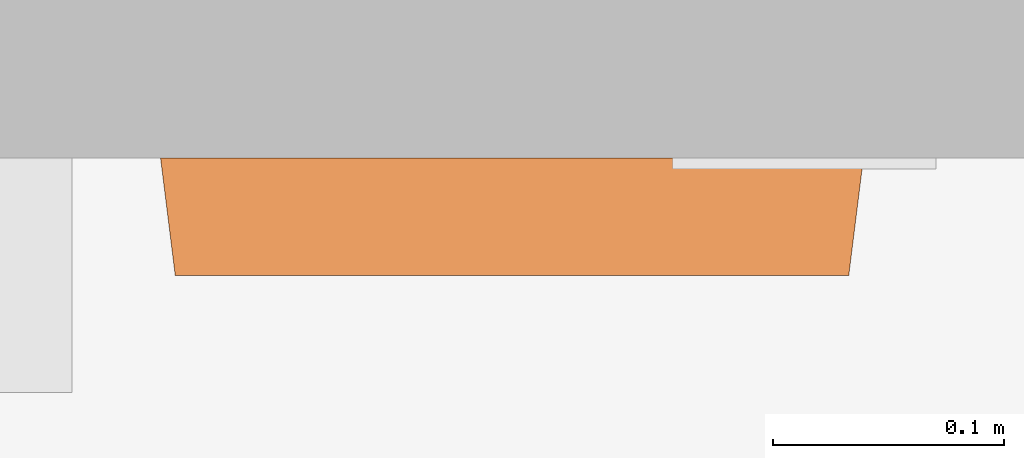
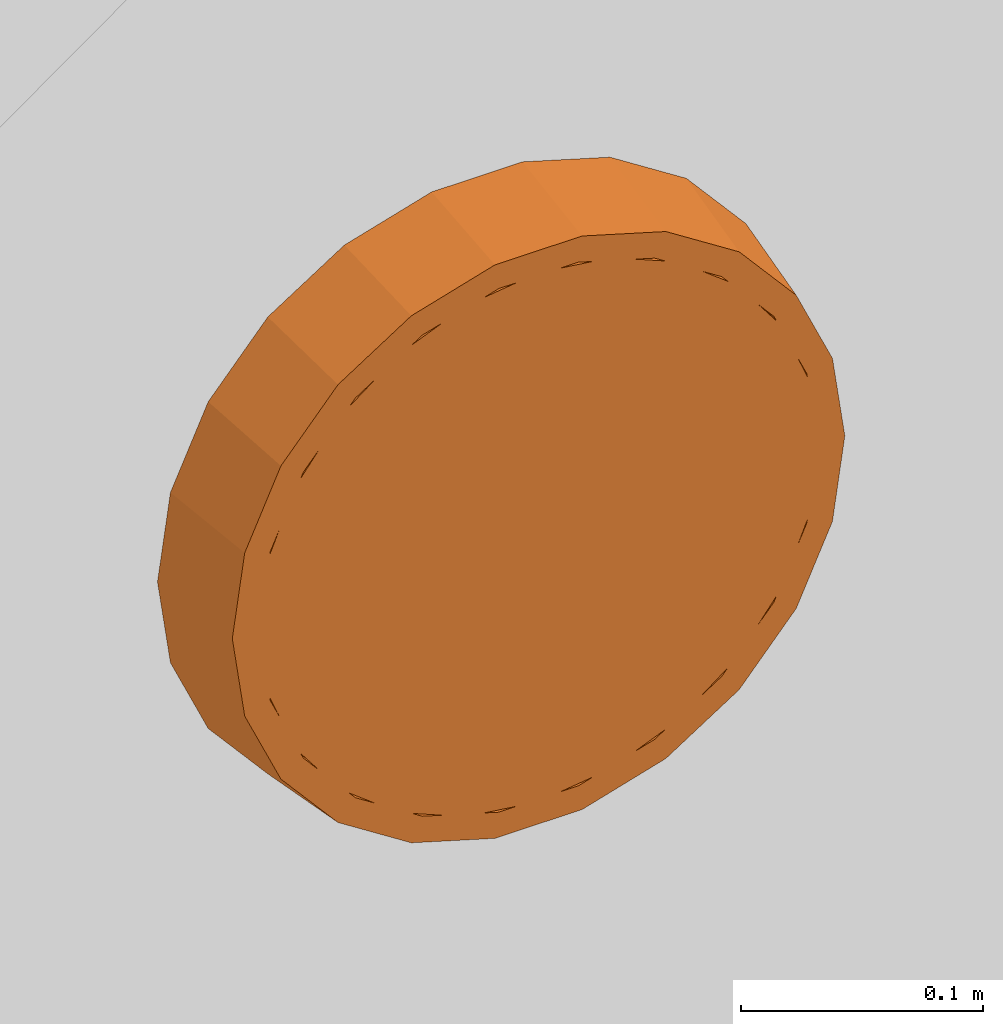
# One storey, part 9 of 9: 1 proxy.
"""IFC2X3 building model written with IfcOpenShell, lengths in feet."""

from ifc_helpers import new_model, entity, si_unit, converted_unit, derived_unit, direction, frame, origin, place, context, subcontext, project, spatial, faceted_brep, source, transform, mapped, type_object, type_shapes, element, save


model = new_model("IFC2X3")

# Units and contexts
model_context = context("Model", 3, precision=0.0001, world=origin(), true_north=direction((6.12303176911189e-17, 1.0)))
body_context = subcontext(model_context, "Body", "Model", "MODEL_VIEW")
ifc_project = project(units=[converted_unit("LENGTHUNIT", "FOOT", entity("IfcRatioMeasure", 0.3048), si_unit("LENGTHUNIT", "METRE"), dimensions=[1, 0, 0, 0, 0, 0, 0]), converted_unit("AREAUNIT", "SQUARE FOOT", entity("IfcRatioMeasure", 0.09290304), si_unit("AREAUNIT", "SQUARE_METRE"), dimensions=[2, 0, 0, 0, 0, 0, 0]), converted_unit("VOLUMEUNIT", "CUBIC FOOT", entity("IfcRatioMeasure", 0.028316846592), si_unit("VOLUMEUNIT", "CUBIC_METRE"), dimensions=[3, 0, 0, 0, 0, 0, 0]), converted_unit("PLANEANGLEUNIT", "DEGREE", entity("IfcRatioMeasure", 0.0174532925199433), si_unit("PLANEANGLEUNIT", "RADIAN"), dimensions=[0, 0, 0, 0, 0, 0, 0]), si_unit("MASSUNIT", "GRAM", prefix="KILO"), derived_unit("MASSDENSITYUNIT", [(si_unit("MASSUNIT", "GRAM", prefix="KILO"), 1), (si_unit("LENGTHUNIT", "METRE"), -3)]), si_unit("TIMEUNIT", "SECOND"), si_unit("FREQUENCYUNIT", "HERTZ"), si_unit("THERMODYNAMICTEMPERATUREUNIT", "DEGREE_CELSIUS"), derived_unit("THERMALTRANSMITTANCEUNIT", [(si_unit("MASSUNIT", "GRAM", prefix="KILO"), 1), (si_unit("THERMODYNAMICTEMPERATUREUNIT", "KELVIN"), -1), (si_unit("TIMEUNIT", "SECOND"), -3)]), derived_unit("VOLUMETRICFLOWRATEUNIT", [(si_unit("LENGTHUNIT", "METRE"), 3), (si_unit("TIMEUNIT", "SECOND"), -1)]), si_unit("ELECTRICCURRENTUNIT", "AMPERE"), si_unit("ELECTRICVOLTAGEUNIT", "VOLT"), si_unit("POWERUNIT", "WATT"), si_unit("FORCEUNIT", "NEWTON"), si_unit("ILLUMINANCEUNIT", "LUX"), si_unit("LUMINOUSFLUXUNIT", "LUMEN"), si_unit("LUMINOUSINTENSITYUNIT", "CANDELA"), derived_unit("USERDEFINED", [(si_unit("MASSUNIT", "GRAM", prefix="KILO"), -1), (si_unit("LENGTHUNIT", "METRE"), -2), (si_unit("TIMEUNIT", "SECOND"), 3), (si_unit("LUMINOUSFLUXUNIT", "LUMEN"), 1)]), derived_unit("LINEARVELOCITYUNIT", [(si_unit("LENGTHUNIT", "METRE"), 1), (si_unit("TIMEUNIT", "SECOND"), -1)]), si_unit("PRESSUREUNIT", "PASCAL"), derived_unit("USERDEFINED", [(si_unit("LENGTHUNIT", "METRE"), -2), (si_unit("MASSUNIT", "GRAM", prefix="KILO"), 1), (si_unit("TIMEUNIT", "SECOND"), -2)])], contexts=[model_context])

# Site, building, storey, space
site_placement = place(None, origin())
site = spatial("IfcSite", under=ifc_project, at=site_placement, Name="Default", CompositionType="ELEMENT")
building_placement = place(site_placement, origin())
building = spatial("IfcBuilding", under=site, at=building_placement, Name="OUTPATIENT / PACT CLINIC (Ch. 265)", CompositionType="ELEMENT")
storey_placement = place(building_placement, origin())
storey = spatial("IfcBuildingStorey", under=building, at=storey_placement, Name="DATUM", CompositionType="ELEMENT", Elevation=0.0)
space_placement = place(storey_placement, origin())
space = spatial("IfcSpace", under=storey, at=space_placement, Name="WRTM2", CompositionType="ELEMENT", InteriorOrExteriorSpace="INTERNAL")

# Proxy
building_element_proxy_type = type_object("IfcBuildingElementProxyType", Name="F3200 - Clock, Battery, 12in Dia", PredefinedType="NOTDEFINED")
shared_shape = source(origin(), body_context, "Body", "Brep", [
    faceted_brep([(0.0527623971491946, -0.166666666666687, -0.0087350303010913), (0.143371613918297, -0.166666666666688, 0.0607918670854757), (0.212898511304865, -0.16666666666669, 0.151401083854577), (0.256604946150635, -0.166666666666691, 0.256917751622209), (0.271512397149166, -0.166666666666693, 0.370151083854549), (0.256604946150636, -0.166666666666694, 0.483384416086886), (0.212898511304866, -0.166666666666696, 0.588901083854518), (0.143371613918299, -0.166666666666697, 0.67951030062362), (0.052762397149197, -0.166666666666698, 0.749037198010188), (-0.0527542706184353, -0.166666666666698, 0.792743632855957), (-0.165987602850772, -0.166666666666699, 0.807651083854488), (-0.279220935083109, -0.166666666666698, 0.792743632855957), (-0.384737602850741, -0.166666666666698, 0.749037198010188), (-0.475346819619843, -0.166666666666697, 0.679510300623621), (-0.544873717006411, -0.166666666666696, 0.588901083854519), (-0.588580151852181, -0.166666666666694, 0.483384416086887), (-0.603487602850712, -0.166666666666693, 0.37015108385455), (-0.588580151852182, -0.166666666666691, 0.256917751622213), (-0.544873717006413, -0.16666666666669, 0.151401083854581), (-0.475346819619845, -0.166666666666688, 0.0607918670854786), (-0.384737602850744, -0.166666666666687, -0.0087350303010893), (-0.279220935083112, -0.166666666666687, -0.052441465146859), (-0.165987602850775, -0.166666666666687, -0.0673489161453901), (-0.0527542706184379, -0.166666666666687, -0.0524414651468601), (0.256604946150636, -0.145833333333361, 0.483384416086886), (0.271512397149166, -0.145833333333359, 0.370151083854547), (0.256604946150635, -0.145833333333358, 0.256917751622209), (0.212898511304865, -0.145833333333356, 0.151401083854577), (0.143371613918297, -0.145833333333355, 0.0607918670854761), (0.0527623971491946, -0.145833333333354, -0.00873503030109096), (-0.0527542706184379, -0.145833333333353, -0.0524414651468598), (-0.165987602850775, -0.145833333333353, -0.0673489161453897), (-0.279220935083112, -0.145833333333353, -0.0524414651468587), (-0.384737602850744, -0.145833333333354, -0.00873503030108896), (-0.475346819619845, -0.145833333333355, 0.060791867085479), (-0.544873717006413, -0.145833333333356, 0.151401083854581), (-0.588580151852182, -0.145833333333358, 0.256917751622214), (-0.603487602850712, -0.145833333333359, 0.37015108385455), (-0.588580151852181, -0.145833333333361, 0.483384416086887), (-0.544873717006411, -0.145833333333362, 0.588901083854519), (-0.475346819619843, -0.145833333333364, 0.679510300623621), (-0.384737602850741, -0.145833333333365, 0.749037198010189), (-0.279220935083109, -0.145833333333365, 0.792743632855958), (-0.165987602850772, -0.145833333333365, 0.807651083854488), (-0.0527542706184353, -0.145833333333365, 0.792743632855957), (0.052762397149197, -0.145833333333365, 0.749037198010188), (0.143371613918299, -0.145833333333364, 0.67951030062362), (0.212898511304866, -0.145833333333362, 0.588901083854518)], [[[0, 1, 2, 3, 4, 5, 6, 7, 8, 9, 10, 11, 12, 13, 14, 15, 16, 17, 18, 19, 20, 21, 22, 23]], [[24, 25, 26, 27, 28, 29, 30, 31, 32, 33, 34, 35, 36, 37, 38, 39, 40, 41, 42, 43, 44, 45, 46, 47]], [[36, 17, 16, 37]], [[35, 18, 17, 36]], [[20, 19, 34, 33]], [[35, 34, 19, 18]], [[21, 20, 33, 32]], [[22, 21, 32, 31]], [[30, 23, 22, 31]], [[29, 0, 23, 30]], [[2, 1, 28, 27]], [[29, 28, 1, 0]], [[3, 2, 27, 26]], [[4, 3, 26, 25]], [[24, 5, 4, 25]], [[47, 6, 5, 24]], [[8, 7, 46, 45]], [[47, 46, 7, 6]], [[9, 8, 45, 44]], [[10, 9, 44, 43]], [[11, 10, 43, 42]], [[12, 11, 42, 41]], [[14, 39, 38, 15]], [[15, 38, 37, 16]], [[12, 41, 40, 13]], [[40, 39, 14, 13]]]),
    faceted_brep([(-0.493417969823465, 0.0, -0.00772370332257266), (-0.586614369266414, 0.0, 0.0998306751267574), (-0.165987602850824, 0.0, 0.370151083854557), (-0.373695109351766, 0.0, -0.0846649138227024), (-0.645734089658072, 0.0, 0.229284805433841), (-0.665987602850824, 0.0, 0.370151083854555), (-0.645734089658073, 0.0, 0.51101736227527), (-0.586614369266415, 0.0, 0.640471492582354), (-0.493417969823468, 0.0, 0.748025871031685), (-0.373695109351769, 0.0, 0.824967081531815), (-0.237145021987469, 0.0, 0.865061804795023), (-0.0948301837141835, 0.0, 0.865061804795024), (0.0417199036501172, 0.0, 0.824967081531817), (0.161442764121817, 0.0, 0.748025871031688), (0.254639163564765, 0.0, 0.640471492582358), (0.313758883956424, 0.0, 0.511017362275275), (0.334012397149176, 0.0, 0.370151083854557), (0.313758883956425, 0.0, 0.229284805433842), (0.254639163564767, 0.0, 0.0998306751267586), (0.161442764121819, 0.0, -0.00772370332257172), (0.0417199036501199, 0.0, -0.0846649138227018), (-0.0948301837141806, 0.0, -0.124759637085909), (-0.237145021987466, 0.0, -0.124759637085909), (-0.165987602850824, -0.145833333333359, 0.370151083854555), (-0.534036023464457, -0.145833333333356, 0.133620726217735), (-0.452489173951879, -0.145833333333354, 0.0395106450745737), (-0.585765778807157, -0.145833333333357, 0.246893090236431), (-0.347731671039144, -0.145833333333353, -0.0278129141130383), (-0.228250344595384, -0.145833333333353, -0.0628957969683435), (-0.603487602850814, -0.145833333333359, 0.370151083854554), (-0.103724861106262, -0.145833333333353, -0.0628957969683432), (0.0157564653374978, -0.145833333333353, -0.0278129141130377), (0.120513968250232, -0.145833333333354, 0.0395106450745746), (0.20206081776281, -0.145833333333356, 0.133620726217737), (0.253790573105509, -0.145833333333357, 0.246893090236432), (0.271512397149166, -0.145833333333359, 0.370151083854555), (-0.585765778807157, -0.145833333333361, 0.493409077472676), (-0.534036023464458, -0.145833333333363, 0.606681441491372), (-0.452489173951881, -0.145833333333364, 0.700791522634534), (-0.347731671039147, -0.145833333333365, 0.768115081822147), (-0.228250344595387, -0.145833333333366, 0.803197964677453), (0.253790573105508, -0.145833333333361, 0.49340907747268), (0.202060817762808, -0.145833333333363, 0.606681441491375), (0.12051396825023, -0.145833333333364, 0.700791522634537), (0.0157564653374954, -0.145833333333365, 0.768115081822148), (-0.103724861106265, -0.145833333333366, 0.803197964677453), (0.253790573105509, -0.166666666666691, 0.246893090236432), (0.271512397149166, -0.166666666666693, 0.370151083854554), (0.20206081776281, -0.166666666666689, 0.133620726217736), (-0.103724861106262, -0.166666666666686, -0.0628957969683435), (0.0157564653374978, -0.166666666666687, -0.0278129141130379), (0.120513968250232, -0.166666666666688, 0.0395106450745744), (-0.228250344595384, -0.166666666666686, -0.0628957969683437), (-0.452489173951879, -0.166666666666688, 0.0395106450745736), (-0.347731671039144, -0.166666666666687, -0.0278129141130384), (-0.603487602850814, -0.166666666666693, 0.370151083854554), (-0.585765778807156, -0.166666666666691, 0.246893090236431), (-0.534036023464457, -0.166666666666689, 0.133620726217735), (-0.585765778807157, -0.166666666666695, 0.493409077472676), (-0.534036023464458, -0.166666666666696, 0.606681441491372), (-0.347731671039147, -0.166666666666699, 0.768115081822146), (-0.452489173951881, -0.166666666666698, 0.700791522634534), (-0.228250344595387, -0.166666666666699, 0.803197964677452), (-0.103724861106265, -0.166666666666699, 0.803197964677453), (0.0157564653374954, -0.166666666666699, 0.768115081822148), (0.12051396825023, -0.166666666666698, 0.700791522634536), (0.253790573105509, -0.166666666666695, 0.493409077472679), (0.202060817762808, -0.166666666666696, 0.606681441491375), (-0.62574465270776, -0.166666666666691, 0.235154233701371), (-0.64515426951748, -0.166666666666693, 0.370151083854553), (-0.569088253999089, -0.166666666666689, 0.111094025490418), (-0.479775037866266, -0.166666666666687, 0.00802107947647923), (-0.365040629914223, -0.166666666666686, -0.0657142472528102), (-0.234180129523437, -0.166666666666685, -0.104138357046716), (-0.0977950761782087, -0.166666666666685, -0.104138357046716), (0.0330654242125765, -0.166666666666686, -0.0657142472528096), (0.147799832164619, -0.166666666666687, 0.00802107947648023), (0.237113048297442, -0.166666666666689, 0.11109402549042), (0.293769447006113, -0.166666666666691, 0.235154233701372), (0.313179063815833, -0.166666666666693, 0.370151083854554), (0.293769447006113, -0.166666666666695, 0.50514793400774), (0.237113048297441, -0.166666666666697, 0.629208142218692), (0.147799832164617, -0.166666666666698, 0.732281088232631), (0.0330654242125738, -0.1666666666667, 0.80601641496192), (-0.0977950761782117, -0.1666666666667, 0.844440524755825), (-0.23418012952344, -0.1666666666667, 0.844440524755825), (-0.365040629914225, -0.1666666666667, 0.806016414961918), (-0.479775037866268, -0.166666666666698, 0.732281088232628), (-0.569088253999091, -0.166666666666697, 0.629208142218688), (-0.625744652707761, -0.166666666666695, 0.505147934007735)], [[[0, 1, 2]], [[0, 2, 3]], [[4, 2, 1]], [[2, 4, 5]], [[5, 6, 2]], [[2, 6, 7]], [[2, 7, 8]], [[2, 8, 9]], [[9, 10, 2]], [[11, 2, 10]], [[2, 11, 12]], [[2, 12, 13]], [[14, 2, 13]], [[2, 14, 15]], [[15, 16, 2]], [[2, 16, 17]], [[2, 17, 18]], [[18, 19, 2]], [[19, 20, 2]], [[21, 2, 20]], [[2, 21, 22]], [[22, 3, 2]], [[23, 24, 25]], [[24, 23, 26]], [[27, 23, 25]], [[23, 27, 28]], [[29, 26, 23]], [[28, 30, 23]], [[31, 23, 30]], [[23, 31, 32]], [[23, 32, 33]], [[33, 34, 23]], [[34, 35, 23]], [[23, 36, 29]], [[37, 36, 23]], [[38, 37, 23]], [[39, 38, 23]], [[23, 40, 39]], [[23, 35, 41]], [[41, 42, 23]], [[43, 23, 42]], [[43, 44, 23]], [[44, 45, 23]], [[40, 23, 45]], [[46, 47, 35, 34]], [[46, 34, 33, 48]], [[31, 30, 49, 50]], [[32, 31, 50, 51]], [[51, 48, 33, 32]], [[30, 28, 52, 49]], [[27, 25, 53, 54]], [[28, 27, 54, 52]], [[29, 55, 56, 26]], [[26, 56, 57, 24]], [[24, 57, 53, 25]], [[55, 29, 36, 58]], [[58, 36, 37, 59]], [[60, 61, 38, 39]], [[59, 37, 38, 61]], [[39, 40, 62, 60]], [[40, 45, 63, 62]], [[64, 63, 45, 44]], [[64, 44, 43, 65]], [[41, 35, 47, 66]], [[42, 41, 66, 67]], [[67, 65, 43, 42]], [[68, 55, 69]], [[56, 55, 68]], [[68, 70, 56]], [[70, 57, 56]], [[71, 57, 70]], [[57, 71, 53]], [[72, 53, 71]], [[54, 53, 72]], [[72, 73, 54]], [[73, 52, 54]], [[49, 52, 73]], [[73, 74, 49]], [[74, 50, 49]], [[75, 50, 74]], [[50, 75, 51]], [[76, 51, 75]], [[48, 51, 76]], [[76, 77, 48]], [[77, 46, 48]], [[78, 46, 77]], [[46, 78, 47]], [[78, 79, 47]], [[79, 80, 47]], [[66, 47, 80]], [[80, 81, 66]], [[66, 81, 67]], [[82, 67, 81]], [[67, 82, 65]], [[65, 82, 83]], [[64, 65, 83]], [[83, 84, 64]], [[64, 84, 63]], [[85, 63, 84]], [[63, 85, 62]], [[62, 85, 60]], [[86, 60, 85]], [[60, 86, 61]], [[61, 86, 87]], [[59, 61, 87]], [[87, 88, 59]], [[59, 88, 58]], [[89, 58, 88]], [[55, 89, 69]], [[58, 89, 55]], [[78, 17, 16, 79]], [[77, 18, 17, 78]], [[19, 76, 75, 20]], [[77, 76, 19, 18]], [[20, 75, 74, 21]], [[74, 73, 22, 21]], [[22, 73, 72, 3]], [[0, 3, 72, 71]], [[4, 1, 70, 68]], [[70, 1, 0, 71]], [[5, 4, 68, 69]], [[89, 6, 5, 69]], [[88, 7, 6, 89]], [[8, 87, 86, 9]], [[88, 87, 8, 7]], [[9, 86, 85, 10]], [[85, 84, 11, 10]], [[83, 12, 11, 84]], [[82, 13, 12, 83]], [[14, 81, 80, 15]], [[82, 81, 14, 13]], [[15, 80, 79, 16]]]),
])
type_shapes(building_element_proxy_type, [shared_shape])
proxy_placement = place(space_placement, frame((216.461487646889, -852.823304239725, 6.07894807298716)))
element("IfcBuildingElementProxy", 1, at=proxy_placement, inside=space, type_object=building_element_proxy_type, Name="F3200 - Clock, Battery, 12in Dia:F3200 - Clock, Battery, 12in Dia", ObjectType="F3200 - Clock, Battery, 12in Dia", context=body_context, shape_type="MappedRepresentation", body=[
    mapped(shared_shape, transform((0.0, 0.0, 0.0), scale=1.0)),
])

save(model, "model.ifc")
